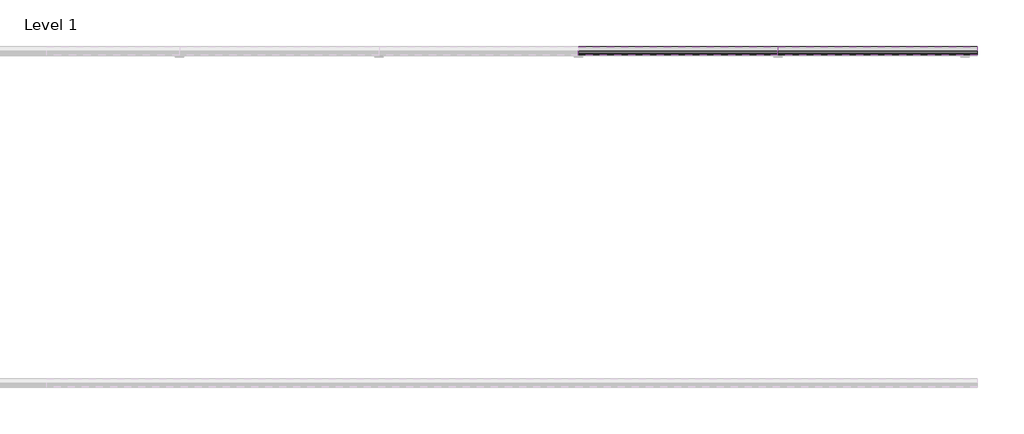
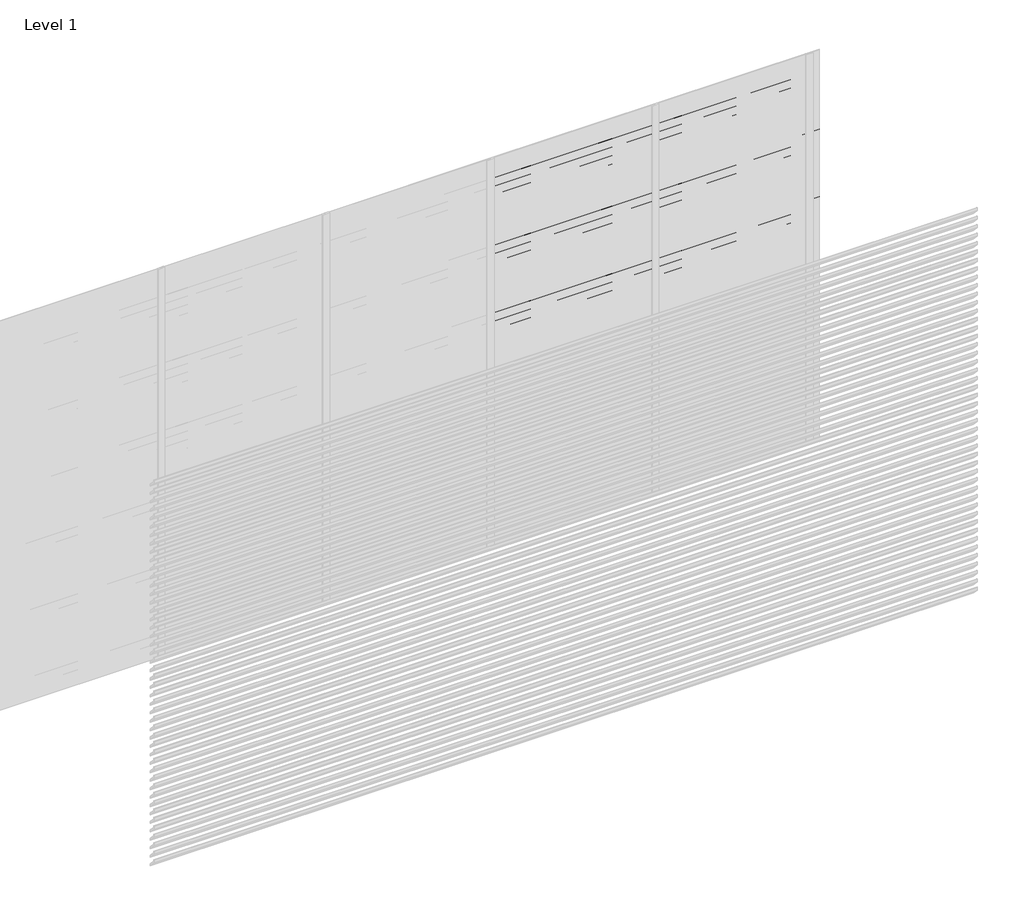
# One storey, part 12 of 12: 103 proxies.
"""IFC4 building model written with IfcOpenShell, lengths in millimetres."""

from ifc_helpers import new_model, si_unit, frame, origin, place, context, project, spatial, polyline, outline, extrude, element, save

model = new_model("IFC4")

# Units and contexts
model_context = context("Model", 3, world=origin())
ifc_project = project(units=[si_unit("LENGTHUNIT", "METRE", prefix="MILLI")], contexts=[model_context])

# Site, building, storey
site = spatial("IfcSite", under=ifc_project)
building = spatial("IfcBuilding", under=site)
storey = spatial("IfcBuildingStorey", under=building, Name="Level 1", Elevation=0.0)

# Proxies
placement = place(None, origin())
element("IfcBuildingElementProxy", 1, Name="Wall Sweeps", at=placement, inside=storey, context=model_context, shape_type="SweptSolid", body=[
    extrude(outline(polyline([(5.0, 715.0), (5.0, 705.7409854), (54.0, 655.0), (54.0, 639.0), (3.0, 691.812046), (3.0, 715.0), (5.0, 715.0)])), frame((2400.0, 0.0, 0.0), z_axis=(1.0, 0.0, 0.0), x_axis=(0.0, 1.0, 0.0)), (0.0, 0.0, 1.0), 1200.0),
])
element("IfcBuildingElementProxy", 2, Name="Wall Sweeps", at=placement, inside=storey, context=model_context, shape_type="SweptSolid", body=[
    extrude(outline(polyline([(5.0, 650.0), (5.0, 640.7409854), (54.0, 590.0), (54.0, 574.0), (3.0, 626.812046), (3.0, 650.0), (5.0, 650.0)])), frame((2400.0, 0.0, 0.0), z_axis=(1.0, 0.0, 0.0), x_axis=(0.0, 1.0, 0.0)), (0.0, 0.0, 1.0), 1200.0),
])
element("IfcBuildingElementProxy", 3, Name="Wall Sweeps", at=placement, inside=storey, context=model_context, shape_type="SweptSolid", body=[
    extrude(outline(polyline([(5.0, 585.0), (5.0, 575.7409854), (54.0, 525.0), (54.0, 509.0), (3.0, 561.812046), (3.0, 585.0), (5.0, 585.0)])), frame((2400.0, 0.0, 0.0), z_axis=(1.0, 0.0, 0.0), x_axis=(0.0, 1.0, 0.0)), (0.0, 0.0, 1.0), 1200.0),
])
element("IfcBuildingElementProxy", 4, Name="Wall Sweeps", at=placement, inside=storey, context=model_context, shape_type="SweptSolid", body=[
    extrude(outline(polyline([(5.0, 520.0), (5.0, 510.7409854), (54.0, 460.0), (54.0, 444.0), (3.0, 496.812046), (3.0, 520.0), (5.0, 520.0)])), frame((2400.0, 0.0, 0.0), z_axis=(1.0, 0.0, 0.0), x_axis=(0.0, 1.0, 0.0)), (0.0, 0.0, 1.0), 1200.0),
])
element("IfcBuildingElementProxy", 5, Name="Wall Sweeps", at=placement, inside=storey, context=model_context, shape_type="SweptSolid", body=[
    extrude(outline(polyline([(5.0, 455.0), (5.0, 445.7409854), (54.0, 395.0), (54.0, 379.0), (3.0, 431.812046), (3.0, 455.0), (5.0, 455.0)])), frame((2400.0, 0.0, 0.0), z_axis=(1.0, 0.0, 0.0), x_axis=(0.0, 1.0, 0.0)), (0.0, 0.0, 1.0), 1200.0),
])
element("IfcBuildingElementProxy", 6, Name="Wall Sweeps", at=placement, inside=storey, context=model_context, shape_type="SweptSolid", body=[
    extrude(outline(polyline([(5.0, 390.0), (5.0, 380.7409854), (54.0, 330.0), (54.0, 314.0), (3.0, 366.812046), (3.0, 390.0), (5.0, 390.0)])), frame((2400.0, 0.0, 0.0), z_axis=(1.0, 0.0, 0.0), x_axis=(0.0, 1.0, 0.0)), (0.0, 0.0, 1.0), 1200.0),
])
element("IfcBuildingElementProxy", 7, Name="Wall Sweeps", at=placement, inside=storey, context=model_context, shape_type="SweptSolid", body=[
    extrude(outline(polyline([(5.0, 325.0), (5.0, 315.7409854), (54.0, 265.0), (54.0, 249.0), (3.0, 301.812046), (3.0, 325.0), (5.0, 325.0)])), frame((2400.0, 0.0, 0.0), z_axis=(1.0, 0.0, 0.0), x_axis=(0.0, 1.0, 0.0)), (0.0, 0.0, 1.0), 1200.0),
])
element("IfcBuildingElementProxy", 8, Name="Wall Sweeps", at=placement, inside=storey, context=model_context, shape_type="SweptSolid", body=[
    extrude(outline(polyline([(5.0, 260.0), (5.0, 250.7409854), (54.0, 200.0), (54.0, 184.0), (3.0, 236.812046), (3.0, 260.0), (5.0, 260.0)])), frame((2400.0, 0.0, 0.0), z_axis=(1.0, 0.0, 0.0), x_axis=(0.0, 1.0, 0.0)), (0.0, 0.0, 1.0), 1200.0),
])
element("IfcBuildingElementProxy", 9, Name="Wall Sweeps", at=placement, inside=storey, context=model_context, shape_type="SweptSolid", body=[
    extrude(outline(polyline([(5.0, 195.0), (5.0, 185.7409854), (54.0, 135.0), (54.0, 119.0), (3.0, 171.812046), (3.0, 195.0), (5.0, 195.0)])), frame((2400.0, 0.0, 0.0), z_axis=(1.0, 0.0, 0.0), x_axis=(0.0, 1.0, 0.0)), (0.0, 0.0, 1.0), 1200.0),
])
element("IfcBuildingElementProxy", 10, Name="Wall Sweeps", at=placement, inside=storey, context=model_context, shape_type="SweptSolid", body=[
    extrude(outline(polyline([(5.0, 130.0), (5.0, 120.7409854), (54.0, 70.0), (54.0, 54.0), (3.0, 106.812046), (3.0, 130.0), (5.0, 130.0)])), frame((2400.0, 0.0, 0.0), z_axis=(1.0, 0.0, 0.0), x_axis=(0.0, 1.0, 0.0)), (0.0, 0.0, 1.0), 1200.0),
])
element("IfcBuildingElementProxy", 11, Name="Wall Sweeps", at=placement, inside=storey, context=model_context, shape_type="SweptSolid", body=[
    extrude(outline(polyline([(5.0, 65.0), (5.0, 55.7409854), (54.0, 5.0), (54.0, -11.0), (3.0, 41.812046), (3.0, 65.0), (5.0, 65.0)])), frame((2400.0, 0.0, 0.0), z_axis=(1.0, 0.0, 0.0), x_axis=(0.0, 1.0, 0.0)), (0.0, 0.0, 1.0), 1200.0),
])
element("IfcBuildingElementProxy", 12, Name="Wall Sweeps", at=placement, inside=storey, context=model_context, shape_type="SweptSolid", body=[
    extrude(outline(polyline([(5.0, 2990.0), (5.0, 2980.7409854), (54.0, 2930.0), (54.0, 2914.0), (3.0, 2966.812046), (3.0, 2990.0), (5.0, 2990.0)])), frame((3600.0, 0.0, 0.0), z_axis=(1.0, 0.0, 0.0), x_axis=(0.0, 1.0, 0.0)), (0.0, 0.0, 1.0), 1200.0),
])
element("IfcBuildingElementProxy", 13, Name="Wall Sweeps", at=placement, inside=storey, context=model_context, shape_type="SweptSolid", body=[
    extrude(outline(polyline([(5.0, 2925.0), (5.0, 2915.7409854), (54.0, 2865.0), (54.0, 2849.0), (3.0, 2901.812046), (3.0, 2925.0), (5.0, 2925.0)])), frame((3600.0, 0.0, 0.0), z_axis=(1.0, 0.0, 0.0), x_axis=(0.0, 1.0, 0.0)), (0.0, 0.0, 1.0), 1200.0),
])
element("IfcBuildingElementProxy", 14, Name="Wall Sweeps", at=placement, inside=storey, context=model_context, shape_type="SweptSolid", body=[
    extrude(outline(polyline([(5.0, 2860.0), (5.0, 2850.7409854), (54.0, 2800.0), (54.0, 2784.0), (3.0, 2836.812046), (3.0, 2860.0), (5.0, 2860.0)])), frame((3600.0, 0.0, 0.0), z_axis=(1.0, 0.0, 0.0), x_axis=(0.0, 1.0, 0.0)), (0.0, 0.0, 1.0), 1200.0),
])
element("IfcBuildingElementProxy", 15, Name="Wall Sweeps", at=placement, inside=storey, context=model_context, shape_type="SweptSolid", body=[
    extrude(outline(polyline([(5.0, 2795.0), (5.0, 2785.7409854), (54.0, 2735.0), (54.0, 2719.0), (3.0, 2771.812046), (3.0, 2795.0), (5.0, 2795.0)])), frame((3600.0, 0.0, 0.0), z_axis=(1.0, 0.0, 0.0), x_axis=(0.0, 1.0, 0.0)), (0.0, 0.0, 1.0), 1200.0),
])
element("IfcBuildingElementProxy", 16, Name="Wall Sweeps", at=placement, inside=storey, context=model_context, shape_type="SweptSolid", body=[
    extrude(outline(polyline([(5.0, 2730.0), (5.0, 2720.7409854), (54.0, 2670.0), (54.0, 2654.0), (3.0, 2706.812046), (3.0, 2730.0), (5.0, 2730.0)])), frame((3600.0, 0.0, 0.0), z_axis=(1.0, 0.0, 0.0), x_axis=(0.0, 1.0, 0.0)), (0.0, 0.0, 1.0), 1200.0),
])
element("IfcBuildingElementProxy", 17, Name="Wall Sweeps", at=placement, inside=storey, context=model_context, shape_type="SweptSolid", body=[
    extrude(outline(polyline([(5.0, 2665.0), (5.0, 2655.7409854), (54.0, 2605.0), (54.0, 2589.0), (3.0, 2641.812046), (3.0, 2665.0), (5.0, 2665.0)])), frame((3600.0, 0.0, 0.0), z_axis=(1.0, 0.0, 0.0), x_axis=(0.0, 1.0, 0.0)), (0.0, 0.0, 1.0), 1200.0),
])
element("IfcBuildingElementProxy", 18, Name="Wall Sweeps", at=placement, inside=storey, context=model_context, shape_type="SweptSolid", body=[
    extrude(outline(polyline([(5.0, 2600.0), (5.0, 2590.7409854), (54.0, 2540.0), (54.0, 2524.0), (3.0, 2576.812046), (3.0, 2600.0), (5.0, 2600.0)])), frame((3600.0, 0.0, 0.0), z_axis=(1.0, 0.0, 0.0), x_axis=(0.0, 1.0, 0.0)), (0.0, 0.0, 1.0), 1200.0),
])
element("IfcBuildingElementProxy", 19, Name="Wall Sweeps", at=placement, inside=storey, context=model_context, shape_type="SweptSolid", body=[
    extrude(outline(polyline([(5.0, 2535.0), (5.0, 2525.7409854), (54.0, 2475.0), (54.0, 2459.0), (3.0, 2511.812046), (3.0, 2535.0), (5.0, 2535.0)])), frame((3600.0, 0.0, 0.0), z_axis=(1.0, 0.0, 0.0), x_axis=(0.0, 1.0, 0.0)), (0.0, 0.0, 1.0), 1200.0),
])
element("IfcBuildingElementProxy", 20, Name="Wall Sweeps", at=placement, inside=storey, context=model_context, shape_type="SweptSolid", body=[
    extrude(outline(polyline([(5.0, 2470.0), (5.0, 2460.7409854), (54.0, 2410.0), (54.0, 2394.0), (3.0, 2446.812046), (3.0, 2470.0), (5.0, 2470.0)])), frame((3600.0, 0.0, 0.0), z_axis=(1.0, 0.0, 0.0), x_axis=(0.0, 1.0, 0.0)), (0.0, 0.0, 1.0), 1200.0),
])
element("IfcBuildingElementProxy", 21, Name="Wall Sweeps", at=placement, inside=storey, context=model_context, shape_type="SweptSolid", body=[
    extrude(outline(polyline([(5.0, 2405.0), (5.0, 2395.7409854), (54.0, 2345.0), (54.0, 2329.0), (3.0, 2381.812046), (3.0, 2405.0), (5.0, 2405.0)])), frame((3600.0, 0.0, 0.0), z_axis=(1.0, 0.0, 0.0), x_axis=(0.0, 1.0, 0.0)), (0.0, 0.0, 1.0), 1200.0),
])
element("IfcBuildingElementProxy", 22, Name="Wall Sweeps", at=placement, inside=storey, context=model_context, shape_type="SweptSolid", body=[
    extrude(outline(polyline([(5.0, 2340.0), (5.0, 2330.7409854), (54.0, 2280.0), (54.0, 2264.0), (3.0, 2316.812046), (3.0, 2340.0), (5.0, 2340.0)])), frame((3600.0, 0.0, 0.0), z_axis=(1.0, 0.0, 0.0), x_axis=(0.0, 1.0, 0.0)), (0.0, 0.0, 1.0), 1200.0),
])
element("IfcBuildingElementProxy", 23, Name="Wall Sweeps", at=placement, inside=storey, context=model_context, shape_type="SweptSolid", body=[
    extrude(outline(polyline([(5.0, 2275.0), (5.0, 2265.7409854), (54.0, 2215.0), (54.0, 2199.0), (3.0, 2251.812046), (3.0, 2275.0), (5.0, 2275.0)])), frame((3600.0, 0.0, 0.0), z_axis=(1.0, 0.0, 0.0), x_axis=(0.0, 1.0, 0.0)), (0.0, 0.0, 1.0), 1200.0),
])
element("IfcBuildingElementProxy", 24, Name="Wall Sweeps", at=placement, inside=storey, context=model_context, shape_type="SweptSolid", body=[
    extrude(outline(polyline([(5.0, 2210.0), (5.0, 2200.7409854), (54.0, 2150.0), (54.0, 2134.0), (3.0, 2186.812046), (3.0, 2210.0), (5.0, 2210.0)])), frame((3600.0, 0.0, 0.0), z_axis=(1.0, 0.0, 0.0), x_axis=(0.0, 1.0, 0.0)), (0.0, 0.0, 1.0), 1200.0),
])
element("IfcBuildingElementProxy", 25, Name="Wall Sweeps", at=placement, inside=storey, context=model_context, shape_type="SweptSolid", body=[
    extrude(outline(polyline([(5.0, 2145.0), (5.0, 2135.7409854), (54.0, 2085.0), (54.0, 2069.0), (3.0, 2121.812046), (3.0, 2145.0), (5.0, 2145.0)])), frame((3600.0, 0.0, 0.0), z_axis=(1.0, 0.0, 0.0), x_axis=(0.0, 1.0, 0.0)), (0.0, 0.0, 1.0), 1200.0),
])
element("IfcBuildingElementProxy", 26, Name="Wall Sweeps", at=placement, inside=storey, context=model_context, shape_type="SweptSolid", body=[
    extrude(outline(polyline([(5.0, 2080.0), (5.0, 2070.7409854), (54.0, 2020.0), (54.0, 2004.0), (3.0, 2056.812046), (3.0, 2080.0), (5.0, 2080.0)])), frame((3600.0, 0.0, 0.0), z_axis=(1.0, 0.0, 0.0), x_axis=(0.0, 1.0, 0.0)), (0.0, 0.0, 1.0), 1200.0),
])
element("IfcBuildingElementProxy", 27, Name="Wall Sweeps", at=placement, inside=storey, context=model_context, shape_type="SweptSolid", body=[
    extrude(outline(polyline([(5.0, 2015.0), (5.0, 2005.7409854), (54.0, 1955.0), (54.0, 1939.0), (3.0, 1991.812046), (3.0, 2015.0), (5.0, 2015.0)])), frame((3600.0, 0.0, 0.0), z_axis=(1.0, 0.0, 0.0), x_axis=(0.0, 1.0, 0.0)), (0.0, 0.0, 1.0), 1200.0),
])
element("IfcBuildingElementProxy", 28, Name="Wall Sweeps", at=placement, inside=storey, context=model_context, shape_type="SweptSolid", body=[
    extrude(outline(polyline([(5.0, 1950.0), (5.0, 1940.7409854), (54.0, 1890.0), (54.0, 1874.0), (3.0, 1926.812046), (3.0, 1950.0), (5.0, 1950.0)])), frame((3600.0, 0.0, 0.0), z_axis=(1.0, 0.0, 0.0), x_axis=(0.0, 1.0, 0.0)), (0.0, 0.0, 1.0), 1200.0),
])
element("IfcBuildingElementProxy", 29, Name="Wall Sweeps", at=placement, inside=storey, context=model_context, shape_type="SweptSolid", body=[
    extrude(outline(polyline([(5.0, 1885.0), (5.0, 1875.7409854), (54.0, 1825.0), (54.0, 1809.0), (3.0, 1861.812046), (3.0, 1885.0), (5.0, 1885.0)])), frame((3600.0, 0.0, 0.0), z_axis=(1.0, 0.0, 0.0), x_axis=(0.0, 1.0, 0.0)), (0.0, 0.0, 1.0), 1200.0),
])
element("IfcBuildingElementProxy", 30, Name="Wall Sweeps", at=placement, inside=storey, context=model_context, shape_type="SweptSolid", body=[
    extrude(outline(polyline([(5.0, 1820.0), (5.0, 1810.7409854), (54.0, 1760.0), (54.0, 1744.0), (3.0, 1796.812046), (3.0, 1820.0), (5.0, 1820.0)])), frame((3600.0, 0.0, 0.0), z_axis=(1.0, 0.0, 0.0), x_axis=(0.0, 1.0, 0.0)), (0.0, 0.0, 1.0), 1200.0),
])
element("IfcBuildingElementProxy", 31, Name="Wall Sweeps", at=placement, inside=storey, context=model_context, shape_type="SweptSolid", body=[
    extrude(outline(polyline([(5.0, 1755.0), (5.0, 1745.7409854), (54.0, 1695.0), (54.0, 1679.0), (3.0, 1731.812046), (3.0, 1755.0), (5.0, 1755.0)])), frame((3600.0, 0.0, 0.0), z_axis=(1.0, 0.0, 0.0), x_axis=(0.0, 1.0, 0.0)), (0.0, 0.0, 1.0), 1200.0),
])
element("IfcBuildingElementProxy", 32, Name="Wall Sweeps", at=placement, inside=storey, context=model_context, shape_type="SweptSolid", body=[
    extrude(outline(polyline([(5.0, 1690.0), (5.0, 1680.7409854), (54.0, 1630.0), (54.0, 1614.0), (3.0, 1666.812046), (3.0, 1690.0), (5.0, 1690.0)])), frame((3600.0, 0.0, 0.0), z_axis=(1.0, 0.0, 0.0), x_axis=(0.0, 1.0, 0.0)), (0.0, 0.0, 1.0), 1200.0),
])
element("IfcBuildingElementProxy", 33, Name="Wall Sweeps", at=placement, inside=storey, context=model_context, shape_type="SweptSolid", body=[
    extrude(outline(polyline([(5.0, 1625.0), (5.0, 1615.7409854), (54.0, 1565.0), (54.0, 1549.0), (3.0, 1601.812046), (3.0, 1625.0), (5.0, 1625.0)])), frame((3600.0, 0.0, 0.0), z_axis=(1.0, 0.0, 0.0), x_axis=(0.0, 1.0, 0.0)), (0.0, 0.0, 1.0), 1200.0),
])
element("IfcBuildingElementProxy", 34, Name="Wall Sweeps", at=placement, inside=storey, context=model_context, shape_type="SweptSolid", body=[
    extrude(outline(polyline([(5.0, 1560.0), (5.0, 1550.7409854), (54.0, 1500.0), (54.0, 1484.0), (3.0, 1536.812046), (3.0, 1560.0), (5.0, 1560.0)])), frame((3600.0, 0.0, 0.0), z_axis=(1.0, 0.0, 0.0), x_axis=(0.0, 1.0, 0.0)), (0.0, 0.0, 1.0), 1200.0),
])
element("IfcBuildingElementProxy", 35, Name="Wall Sweeps", at=placement, inside=storey, context=model_context, shape_type="SweptSolid", body=[
    extrude(outline(polyline([(5.0, 1495.0), (5.0, 1485.7409854), (54.0, 1435.0), (54.0, 1419.0), (3.0, 1471.812046), (3.0, 1495.0), (5.0, 1495.0)])), frame((3600.0, 0.0, 0.0), z_axis=(1.0, 0.0, 0.0), x_axis=(0.0, 1.0, 0.0)), (0.0, 0.0, 1.0), 1200.0),
])
element("IfcBuildingElementProxy", 36, Name="Wall Sweeps", at=placement, inside=storey, context=model_context, shape_type="SweptSolid", body=[
    extrude(outline(polyline([(5.0, 1430.0), (5.0, 1420.7409854), (54.0, 1370.0), (54.0, 1354.0), (3.0, 1406.812046), (3.0, 1430.0), (5.0, 1430.0)])), frame((3600.0, 0.0, 0.0), z_axis=(1.0, 0.0, 0.0), x_axis=(0.0, 1.0, 0.0)), (0.0, 0.0, 1.0), 1200.0),
])
element("IfcBuildingElementProxy", 37, Name="Wall Sweeps", at=placement, inside=storey, context=model_context, shape_type="SweptSolid", body=[
    extrude(outline(polyline([(5.0, 1365.0), (5.0, 1355.7409854), (54.0, 1305.0), (54.0, 1289.0), (3.0, 1341.812046), (3.0, 1365.0), (5.0, 1365.0)])), frame((3600.0, 0.0, 0.0), z_axis=(1.0, 0.0, 0.0), x_axis=(0.0, 1.0, 0.0)), (0.0, 0.0, 1.0), 1200.0),
])
element("IfcBuildingElementProxy", 38, Name="Wall Sweeps", at=placement, inside=storey, context=model_context, shape_type="SweptSolid", body=[
    extrude(outline(polyline([(5.0, 1300.0), (5.0, 1290.7409854), (54.0, 1240.0), (54.0, 1224.0), (3.0, 1276.812046), (3.0, 1300.0), (5.0, 1300.0)])), frame((3600.0, 0.0, 0.0), z_axis=(1.0, 0.0, 0.0), x_axis=(0.0, 1.0, 0.0)), (0.0, 0.0, 1.0), 1200.0),
])
element("IfcBuildingElementProxy", 39, Name="Wall Sweeps", at=placement, inside=storey, context=model_context, shape_type="SweptSolid", body=[
    extrude(outline(polyline([(5.0, 1235.0), (5.0, 1225.7409854), (54.0, 1175.0), (54.0, 1159.0), (3.0, 1211.812046), (3.0, 1235.0), (5.0, 1235.0)])), frame((3600.0, 0.0, 0.0), z_axis=(1.0, 0.0, 0.0), x_axis=(0.0, 1.0, 0.0)), (0.0, 0.0, 1.0), 1200.0),
])
element("IfcBuildingElementProxy", 40, Name="Wall Sweeps", at=placement, inside=storey, context=model_context, shape_type="SweptSolid", body=[
    extrude(outline(polyline([(5.0, 1170.0), (5.0, 1160.7409854), (54.0, 1110.0), (54.0, 1094.0), (3.0, 1146.812046), (3.0, 1170.0), (5.0, 1170.0)])), frame((3600.0, 0.0, 0.0), z_axis=(1.0, 0.0, 0.0), x_axis=(0.0, 1.0, 0.0)), (0.0, 0.0, 1.0), 1200.0),
])
element("IfcBuildingElementProxy", 41, Name="Wall Sweeps", at=placement, inside=storey, context=model_context, shape_type="SweptSolid", body=[
    extrude(outline(polyline([(5.0, 1105.0), (5.0, 1095.7409854), (54.0, 1045.0), (54.0, 1029.0), (3.0, 1081.812046), (3.0, 1105.0), (5.0, 1105.0)])), frame((3600.0, 0.0, 0.0), z_axis=(1.0, 0.0, 0.0), x_axis=(0.0, 1.0, 0.0)), (0.0, 0.0, 1.0), 1200.0),
])
element("IfcBuildingElementProxy", 42, Name="Wall Sweeps", at=placement, inside=storey, context=model_context, shape_type="SweptSolid", body=[
    extrude(outline(polyline([(5.0, 1040.0), (5.0, 1030.7409854), (54.0, 980.0), (54.0, 964.0), (3.0, 1016.812046), (3.0, 1040.0), (5.0, 1040.0)])), frame((3600.0, 0.0, 0.0), z_axis=(1.0, 0.0, 0.0), x_axis=(0.0, 1.0, 0.0)), (0.0, 0.0, 1.0), 1200.0),
])
element("IfcBuildingElementProxy", 43, Name="Wall Sweeps", at=placement, inside=storey, context=model_context, shape_type="SweptSolid", body=[
    extrude(outline(polyline([(5.0, 975.0), (5.0, 965.7409854), (54.0, 915.0), (54.0, 899.0), (3.0, 951.812046), (3.0, 975.0), (5.0, 975.0)])), frame((3600.0, 0.0, 0.0), z_axis=(1.0, 0.0, 0.0), x_axis=(0.0, 1.0, 0.0)), (0.0, 0.0, 1.0), 1200.0),
])
element("IfcBuildingElementProxy", 44, Name="Wall Sweeps", at=placement, inside=storey, context=model_context, shape_type="SweptSolid", body=[
    extrude(outline(polyline([(5.0, 910.0), (5.0, 900.7409854), (54.0, 850.0), (54.0, 834.0), (3.0, 886.812046), (3.0, 910.0), (5.0, 910.0)])), frame((3600.0, 0.0, 0.0), z_axis=(1.0, 0.0, 0.0), x_axis=(0.0, 1.0, 0.0)), (0.0, 0.0, 1.0), 1200.0),
])
element("IfcBuildingElementProxy", 45, Name="Wall Sweeps", at=placement, inside=storey, context=model_context, shape_type="SweptSolid", body=[
    extrude(outline(polyline([(5.0, 845.0), (5.0, 835.7409854), (54.0, 785.0), (54.0, 769.0), (3.0, 821.812046), (3.0, 845.0), (5.0, 845.0)])), frame((3600.0, 0.0, 0.0), z_axis=(1.0, 0.0, 0.0), x_axis=(0.0, 1.0, 0.0)), (0.0, 0.0, 1.0), 1200.0),
])
element("IfcBuildingElementProxy", 46, Name="Wall Sweeps", at=placement, inside=storey, context=model_context, shape_type="SweptSolid", body=[
    extrude(outline(polyline([(5.0, 780.0), (5.0, 770.7409854), (54.0, 720.0), (54.0, 704.0), (3.0, 756.812046), (3.0, 780.0), (5.0, 780.0)])), frame((3600.0, 0.0, 0.0), z_axis=(1.0, 0.0, 0.0), x_axis=(0.0, 1.0, 0.0)), (0.0, 0.0, 1.0), 1200.0),
])
element("IfcBuildingElementProxy", 47, Name="Wall Sweeps", at=placement, inside=storey, context=model_context, shape_type="SweptSolid", body=[
    extrude(outline(polyline([(5.0, 715.0), (5.0, 705.7409854), (54.0, 655.0), (54.0, 639.0), (3.0, 691.812046), (3.0, 715.0), (5.0, 715.0)])), frame((3600.0, 0.0, 0.0), z_axis=(1.0, 0.0, 0.0), x_axis=(0.0, 1.0, 0.0)), (0.0, 0.0, 1.0), 1200.0),
])
element("IfcBuildingElementProxy", 48, Name="Wall Sweeps", at=placement, inside=storey, context=model_context, shape_type="SweptSolid", body=[
    extrude(outline(polyline([(5.0, 650.0), (5.0, 640.7409854), (54.0, 590.0), (54.0, 574.0), (3.0, 626.812046), (3.0, 650.0), (5.0, 650.0)])), frame((3600.0, 0.0, 0.0), z_axis=(1.0, 0.0, 0.0), x_axis=(0.0, 1.0, 0.0)), (0.0, 0.0, 1.0), 1200.0),
])
element("IfcBuildingElementProxy", 49, Name="Wall Sweeps", at=placement, inside=storey, context=model_context, shape_type="SweptSolid", body=[
    extrude(outline(polyline([(5.0, 585.0), (5.0, 575.7409854), (54.0, 525.0), (54.0, 509.0), (3.0, 561.812046), (3.0, 585.0), (5.0, 585.0)])), frame((3600.0, 0.0, 0.0), z_axis=(1.0, 0.0, 0.0), x_axis=(0.0, 1.0, 0.0)), (0.0, 0.0, 1.0), 1200.0),
])
element("IfcBuildingElementProxy", 50, Name="Wall Sweeps", at=placement, inside=storey, context=model_context, shape_type="SweptSolid", body=[
    extrude(outline(polyline([(5.0, 520.0), (5.0, 510.7409854), (54.0, 460.0), (54.0, 444.0), (3.0, 496.812046), (3.0, 520.0), (5.0, 520.0)])), frame((3600.0, 0.0, 0.0), z_axis=(1.0, 0.0, 0.0), x_axis=(0.0, 1.0, 0.0)), (0.0, 0.0, 1.0), 1200.0),
])
element("IfcBuildingElementProxy", 51, Name="Wall Sweeps", at=placement, inside=storey, context=model_context, shape_type="SweptSolid", body=[
    extrude(outline(polyline([(5.0, 455.0), (5.0, 445.7409854), (54.0, 395.0), (54.0, 379.0), (3.0, 431.812046), (3.0, 455.0), (5.0, 455.0)])), frame((3600.0, 0.0, 0.0), z_axis=(1.0, 0.0, 0.0), x_axis=(0.0, 1.0, 0.0)), (0.0, 0.0, 1.0), 1200.0),
])
element("IfcBuildingElementProxy", 52, Name="Wall Sweeps", at=placement, inside=storey, context=model_context, shape_type="SweptSolid", body=[
    extrude(outline(polyline([(5.0, 390.0), (5.0, 380.7409854), (54.0, 330.0), (54.0, 314.0), (3.0, 366.812046), (3.0, 390.0), (5.0, 390.0)])), frame((3600.0, 0.0, 0.0), z_axis=(1.0, 0.0, 0.0), x_axis=(0.0, 1.0, 0.0)), (0.0, 0.0, 1.0), 1200.0),
])
element("IfcBuildingElementProxy", 53, Name="Wall Sweeps", at=placement, inside=storey, context=model_context, shape_type="SweptSolid", body=[
    extrude(outline(polyline([(5.0, 325.0), (5.0, 315.7409854), (54.0, 265.0), (54.0, 249.0), (3.0, 301.812046), (3.0, 325.0), (5.0, 325.0)])), frame((3600.0, 0.0, 0.0), z_axis=(1.0, 0.0, 0.0), x_axis=(0.0, 1.0, 0.0)), (0.0, 0.0, 1.0), 1200.0),
])
element("IfcBuildingElementProxy", 54, Name="Wall Sweeps", at=placement, inside=storey, context=model_context, shape_type="SweptSolid", body=[
    extrude(outline(polyline([(5.0, 260.0), (5.0, 250.7409854), (54.0, 200.0), (54.0, 184.0), (3.0, 236.812046), (3.0, 260.0), (5.0, 260.0)])), frame((3600.0, 0.0, 0.0), z_axis=(1.0, 0.0, 0.0), x_axis=(0.0, 1.0, 0.0)), (0.0, 0.0, 1.0), 1200.0),
])
element("IfcBuildingElementProxy", 55, Name="Wall Sweeps", at=placement, inside=storey, context=model_context, shape_type="SweptSolid", body=[
    extrude(outline(polyline([(5.0, 195.0), (5.0, 185.7409854), (54.0, 135.0), (54.0, 119.0), (3.0, 171.812046), (3.0, 195.0), (5.0, 195.0)])), frame((3600.0, 0.0, 0.0), z_axis=(1.0, 0.0, 0.0), x_axis=(0.0, 1.0, 0.0)), (0.0, 0.0, 1.0), 1200.0),
])
element("IfcBuildingElementProxy", 56, Name="Wall Sweeps", at=placement, inside=storey, context=model_context, shape_type="SweptSolid", body=[
    extrude(outline(polyline([(5.0, 130.0), (5.0, 120.7409854), (54.0, 70.0), (54.0, 54.0), (3.0, 106.812046), (3.0, 130.0), (5.0, 130.0)])), frame((3600.0, 0.0, 0.0), z_axis=(1.0, 0.0, 0.0), x_axis=(0.0, 1.0, 0.0)), (0.0, 0.0, 1.0), 1200.0),
])
element("IfcBuildingElementProxy", 57, Name="Wall Sweeps", at=placement, inside=storey, context=model_context, shape_type="SweptSolid", body=[
    extrude(outline(polyline([(5.0, 65.0), (5.0, 55.7409854), (54.0, 5.0), (54.0, -11.0), (3.0, 41.812046), (3.0, 65.0), (5.0, 65.0)])), frame((3600.0, 0.0, 0.0), z_axis=(1.0, 0.0, 0.0), x_axis=(0.0, 1.0, 0.0)), (0.0, 0.0, 1.0), 1200.0),
])
element("IfcBuildingElementProxy", 58, Name="Wall Sweeps", at=placement, inside=storey, context=model_context, shape_type="SweptSolid", body=[
    extrude(outline(polyline([(5.0, 2990.0), (5.0, 2980.7409854), (54.0, 2930.0), (54.0, 2914.0), (3.0, 2966.812046), (3.0, 2990.0), (5.0, 2990.0)])), frame((4800.0, 0.0, 0.0), z_axis=(1.0, 0.0, 0.0), x_axis=(0.0, 1.0, 0.0)), (0.0, 0.0, 1.0), 1200.0),
])
element("IfcBuildingElementProxy", 59, Name="Wall Sweeps", at=placement, inside=storey, context=model_context, shape_type="SweptSolid", body=[
    extrude(outline(polyline([(5.0, 2925.0), (5.0, 2915.7409854), (54.0, 2865.0), (54.0, 2849.0), (3.0, 2901.812046), (3.0, 2925.0), (5.0, 2925.0)])), frame((4800.0, 0.0, 0.0), z_axis=(1.0, 0.0, 0.0), x_axis=(0.0, 1.0, 0.0)), (0.0, 0.0, 1.0), 1200.0),
])
element("IfcBuildingElementProxy", 60, Name="Wall Sweeps", at=placement, inside=storey, context=model_context, shape_type="SweptSolid", body=[
    extrude(outline(polyline([(5.0, 2860.0), (5.0, 2850.7409854), (54.0, 2800.0), (54.0, 2784.0), (3.0, 2836.812046), (3.0, 2860.0), (5.0, 2860.0)])), frame((4800.0, 0.0, 0.0), z_axis=(1.0, 0.0, 0.0), x_axis=(0.0, 1.0, 0.0)), (0.0, 0.0, 1.0), 1200.0),
])
element("IfcBuildingElementProxy", 61, Name="Wall Sweeps", at=placement, inside=storey, context=model_context, shape_type="SweptSolid", body=[
    extrude(outline(polyline([(5.0, 2795.0), (5.0, 2785.7409854), (54.0, 2735.0), (54.0, 2719.0), (3.0, 2771.812046), (3.0, 2795.0), (5.0, 2795.0)])), frame((4800.0, 0.0, 0.0), z_axis=(1.0, 0.0, 0.0), x_axis=(0.0, 1.0, 0.0)), (0.0, 0.0, 1.0), 1200.0),
])
element("IfcBuildingElementProxy", 62, Name="Wall Sweeps", at=placement, inside=storey, context=model_context, shape_type="SweptSolid", body=[
    extrude(outline(polyline([(5.0, 2730.0), (5.0, 2720.7409854), (54.0, 2670.0), (54.0, 2654.0), (3.0, 2706.812046), (3.0, 2730.0), (5.0, 2730.0)])), frame((4800.0, 0.0, 0.0), z_axis=(1.0, 0.0, 0.0), x_axis=(0.0, 1.0, 0.0)), (0.0, 0.0, 1.0), 1200.0),
])
element("IfcBuildingElementProxy", 63, Name="Wall Sweeps", at=placement, inside=storey, context=model_context, shape_type="SweptSolid", body=[
    extrude(outline(polyline([(5.0, 2665.0), (5.0, 2655.7409854), (54.0, 2605.0), (54.0, 2589.0), (3.0, 2641.812046), (3.0, 2665.0), (5.0, 2665.0)])), frame((4800.0, 0.0, 0.0), z_axis=(1.0, 0.0, 0.0), x_axis=(0.0, 1.0, 0.0)), (0.0, 0.0, 1.0), 1200.0),
])
element("IfcBuildingElementProxy", 64, Name="Wall Sweeps", at=placement, inside=storey, context=model_context, shape_type="SweptSolid", body=[
    extrude(outline(polyline([(5.0, 2600.0), (5.0, 2590.7409854), (54.0, 2540.0), (54.0, 2524.0), (3.0, 2576.812046), (3.0, 2600.0), (5.0, 2600.0)])), frame((4800.0, 0.0, 0.0), z_axis=(1.0, 0.0, 0.0), x_axis=(0.0, 1.0, 0.0)), (0.0, 0.0, 1.0), 1200.0),
])
element("IfcBuildingElementProxy", 65, Name="Wall Sweeps", at=placement, inside=storey, context=model_context, shape_type="SweptSolid", body=[
    extrude(outline(polyline([(5.0, 2535.0), (5.0, 2525.7409854), (54.0, 2475.0), (54.0, 2459.0), (3.0, 2511.812046), (3.0, 2535.0), (5.0, 2535.0)])), frame((4800.0, 0.0, 0.0), z_axis=(1.0, 0.0, 0.0), x_axis=(0.0, 1.0, 0.0)), (0.0, 0.0, 1.0), 1200.0),
])
element("IfcBuildingElementProxy", 66, Name="Wall Sweeps", at=placement, inside=storey, context=model_context, shape_type="SweptSolid", body=[
    extrude(outline(polyline([(5.0, 2470.0), (5.0, 2460.7409854), (54.0, 2410.0), (54.0, 2394.0), (3.0, 2446.812046), (3.0, 2470.0), (5.0, 2470.0)])), frame((4800.0, 0.0, 0.0), z_axis=(1.0, 0.0, 0.0), x_axis=(0.0, 1.0, 0.0)), (0.0, 0.0, 1.0), 1200.0),
])
element("IfcBuildingElementProxy", 67, Name="Wall Sweeps", at=placement, inside=storey, context=model_context, shape_type="SweptSolid", body=[
    extrude(outline(polyline([(5.0, 2405.0), (5.0, 2395.7409854), (54.0, 2345.0), (54.0, 2329.0), (3.0, 2381.812046), (3.0, 2405.0), (5.0, 2405.0)])), frame((4800.0, 0.0, 0.0), z_axis=(1.0, 0.0, 0.0), x_axis=(0.0, 1.0, 0.0)), (0.0, 0.0, 1.0), 1200.0),
])
element("IfcBuildingElementProxy", 68, Name="Wall Sweeps", at=placement, inside=storey, context=model_context, shape_type="SweptSolid", body=[
    extrude(outline(polyline([(5.0, 2340.0), (5.0, 2330.7409854), (54.0, 2280.0), (54.0, 2264.0), (3.0, 2316.812046), (3.0, 2340.0), (5.0, 2340.0)])), frame((4800.0, 0.0, 0.0), z_axis=(1.0, 0.0, 0.0), x_axis=(0.0, 1.0, 0.0)), (0.0, 0.0, 1.0), 1200.0),
])
element("IfcBuildingElementProxy", 69, Name="Wall Sweeps", at=placement, inside=storey, context=model_context, shape_type="SweptSolid", body=[
    extrude(outline(polyline([(5.0, 2275.0), (5.0, 2265.7409854), (54.0, 2215.0), (54.0, 2199.0), (3.0, 2251.812046), (3.0, 2275.0), (5.0, 2275.0)])), frame((4800.0, 0.0, 0.0), z_axis=(1.0, 0.0, 0.0), x_axis=(0.0, 1.0, 0.0)), (0.0, 0.0, 1.0), 1200.0),
])
element("IfcBuildingElementProxy", 70, Name="Wall Sweeps", at=placement, inside=storey, context=model_context, shape_type="SweptSolid", body=[
    extrude(outline(polyline([(5.0, 2210.0), (5.0, 2200.7409854), (54.0, 2150.0), (54.0, 2134.0), (3.0, 2186.812046), (3.0, 2210.0), (5.0, 2210.0)])), frame((4800.0, 0.0, 0.0), z_axis=(1.0, 0.0, 0.0), x_axis=(0.0, 1.0, 0.0)), (0.0, 0.0, 1.0), 1200.0),
])
element("IfcBuildingElementProxy", 71, Name="Wall Sweeps", at=placement, inside=storey, context=model_context, shape_type="SweptSolid", body=[
    extrude(outline(polyline([(5.0, 2145.0), (5.0, 2135.7409854), (54.0, 2085.0), (54.0, 2069.0), (3.0, 2121.812046), (3.0, 2145.0), (5.0, 2145.0)])), frame((4800.0, 0.0, 0.0), z_axis=(1.0, 0.0, 0.0), x_axis=(0.0, 1.0, 0.0)), (0.0, 0.0, 1.0), 1200.0),
])
element("IfcBuildingElementProxy", 72, Name="Wall Sweeps", at=placement, inside=storey, context=model_context, shape_type="SweptSolid", body=[
    extrude(outline(polyline([(5.0, 2080.0), (5.0, 2070.7409854), (54.0, 2020.0), (54.0, 2004.0), (3.0, 2056.812046), (3.0, 2080.0), (5.0, 2080.0)])), frame((4800.0, 0.0, 0.0), z_axis=(1.0, 0.0, 0.0), x_axis=(0.0, 1.0, 0.0)), (0.0, 0.0, 1.0), 1200.0),
])
element("IfcBuildingElementProxy", 73, Name="Wall Sweeps", at=placement, inside=storey, context=model_context, shape_type="SweptSolid", body=[
    extrude(outline(polyline([(5.0, 2015.0), (5.0, 2005.7409854), (54.0, 1955.0), (54.0, 1939.0), (3.0, 1991.812046), (3.0, 2015.0), (5.0, 2015.0)])), frame((4800.0, 0.0, 0.0), z_axis=(1.0, 0.0, 0.0), x_axis=(0.0, 1.0, 0.0)), (0.0, 0.0, 1.0), 1200.0),
])
element("IfcBuildingElementProxy", 74, Name="Wall Sweeps", at=placement, inside=storey, context=model_context, shape_type="SweptSolid", body=[
    extrude(outline(polyline([(5.0, 1950.0), (5.0, 1940.7409854), (54.0, 1890.0), (54.0, 1874.0), (3.0, 1926.812046), (3.0, 1950.0), (5.0, 1950.0)])), frame((4800.0, 0.0, 0.0), z_axis=(1.0, 0.0, 0.0), x_axis=(0.0, 1.0, 0.0)), (0.0, 0.0, 1.0), 1200.0),
])
element("IfcBuildingElementProxy", 75, Name="Wall Sweeps", at=placement, inside=storey, context=model_context, shape_type="SweptSolid", body=[
    extrude(outline(polyline([(5.0, 1885.0), (5.0, 1875.7409854), (54.0, 1825.0), (54.0, 1809.0), (3.0, 1861.812046), (3.0, 1885.0), (5.0, 1885.0)])), frame((4800.0, 0.0, 0.0), z_axis=(1.0, 0.0, 0.0), x_axis=(0.0, 1.0, 0.0)), (0.0, 0.0, 1.0), 1200.0),
])
element("IfcBuildingElementProxy", 76, Name="Wall Sweeps", at=placement, inside=storey, context=model_context, shape_type="SweptSolid", body=[
    extrude(outline(polyline([(5.0, 1820.0), (5.0, 1810.7409854), (54.0, 1760.0), (54.0, 1744.0), (3.0, 1796.812046), (3.0, 1820.0), (5.0, 1820.0)])), frame((4800.0, 0.0, 0.0), z_axis=(1.0, 0.0, 0.0), x_axis=(0.0, 1.0, 0.0)), (0.0, 0.0, 1.0), 1200.0),
])
element("IfcBuildingElementProxy", 77, Name="Wall Sweeps", at=placement, inside=storey, context=model_context, shape_type="SweptSolid", body=[
    extrude(outline(polyline([(5.0, 1755.0), (5.0, 1745.7409854), (54.0, 1695.0), (54.0, 1679.0), (3.0, 1731.812046), (3.0, 1755.0), (5.0, 1755.0)])), frame((4800.0, 0.0, 0.0), z_axis=(1.0, 0.0, 0.0), x_axis=(0.0, 1.0, 0.0)), (0.0, 0.0, 1.0), 1200.0),
])
element("IfcBuildingElementProxy", 78, Name="Wall Sweeps", at=placement, inside=storey, context=model_context, shape_type="SweptSolid", body=[
    extrude(outline(polyline([(5.0, 1690.0), (5.0, 1680.7409854), (54.0, 1630.0), (54.0, 1614.0), (3.0, 1666.812046), (3.0, 1690.0), (5.0, 1690.0)])), frame((4800.0, 0.0, 0.0), z_axis=(1.0, 0.0, 0.0), x_axis=(0.0, 1.0, 0.0)), (0.0, 0.0, 1.0), 1200.0),
])
element("IfcBuildingElementProxy", 79, Name="Wall Sweeps", at=placement, inside=storey, context=model_context, shape_type="SweptSolid", body=[
    extrude(outline(polyline([(5.0, 1625.0), (5.0, 1615.7409854), (54.0, 1565.0), (54.0, 1549.0), (3.0, 1601.812046), (3.0, 1625.0), (5.0, 1625.0)])), frame((4800.0, 0.0, 0.0), z_axis=(1.0, 0.0, 0.0), x_axis=(0.0, 1.0, 0.0)), (0.0, 0.0, 1.0), 1200.0),
])
element("IfcBuildingElementProxy", 80, Name="Wall Sweeps", at=placement, inside=storey, context=model_context, shape_type="SweptSolid", body=[
    extrude(outline(polyline([(5.0, 1560.0), (5.0, 1550.7409854), (54.0, 1500.0), (54.0, 1484.0), (3.0, 1536.812046), (3.0, 1560.0), (5.0, 1560.0)])), frame((4800.0, 0.0, 0.0), z_axis=(1.0, 0.0, 0.0), x_axis=(0.0, 1.0, 0.0)), (0.0, 0.0, 1.0), 1200.0),
])
element("IfcBuildingElementProxy", 81, Name="Wall Sweeps", at=placement, inside=storey, context=model_context, shape_type="SweptSolid", body=[
    extrude(outline(polyline([(5.0, 1495.0), (5.0, 1485.7409854), (54.0, 1435.0), (54.0, 1419.0), (3.0, 1471.812046), (3.0, 1495.0), (5.0, 1495.0)])), frame((4800.0, 0.0, 0.0), z_axis=(1.0, 0.0, 0.0), x_axis=(0.0, 1.0, 0.0)), (0.0, 0.0, 1.0), 1200.0),
])
element("IfcBuildingElementProxy", 82, Name="Wall Sweeps", at=placement, inside=storey, context=model_context, shape_type="SweptSolid", body=[
    extrude(outline(polyline([(5.0, 1430.0), (5.0, 1420.7409854), (54.0, 1370.0), (54.0, 1354.0), (3.0, 1406.812046), (3.0, 1430.0), (5.0, 1430.0)])), frame((4800.0, 0.0, 0.0), z_axis=(1.0, 0.0, 0.0), x_axis=(0.0, 1.0, 0.0)), (0.0, 0.0, 1.0), 1200.0),
])
element("IfcBuildingElementProxy", 83, Name="Wall Sweeps", at=placement, inside=storey, context=model_context, shape_type="SweptSolid", body=[
    extrude(outline(polyline([(5.0, 1365.0), (5.0, 1355.7409854), (54.0, 1305.0), (54.0, 1289.0), (3.0, 1341.812046), (3.0, 1365.0), (5.0, 1365.0)])), frame((4800.0, 0.0, 0.0), z_axis=(1.0, 0.0, 0.0), x_axis=(0.0, 1.0, 0.0)), (0.0, 0.0, 1.0), 1200.0),
])
element("IfcBuildingElementProxy", 84, Name="Wall Sweeps", at=placement, inside=storey, context=model_context, shape_type="SweptSolid", body=[
    extrude(outline(polyline([(5.0, 1300.0), (5.0, 1290.7409854), (54.0, 1240.0), (54.0, 1224.0), (3.0, 1276.812046), (3.0, 1300.0), (5.0, 1300.0)])), frame((4800.0, 0.0, 0.0), z_axis=(1.0, 0.0, 0.0), x_axis=(0.0, 1.0, 0.0)), (0.0, 0.0, 1.0), 1200.0),
])
element("IfcBuildingElementProxy", 85, Name="Wall Sweeps", at=placement, inside=storey, context=model_context, shape_type="SweptSolid", body=[
    extrude(outline(polyline([(5.0, 1235.0), (5.0, 1225.7409854), (54.0, 1175.0), (54.0, 1159.0), (3.0, 1211.812046), (3.0, 1235.0), (5.0, 1235.0)])), frame((4800.0, 0.0, 0.0), z_axis=(1.0, 0.0, 0.0), x_axis=(0.0, 1.0, 0.0)), (0.0, 0.0, 1.0), 1200.0),
])
element("IfcBuildingElementProxy", 86, Name="Wall Sweeps", at=placement, inside=storey, context=model_context, shape_type="SweptSolid", body=[
    extrude(outline(polyline([(5.0, 1170.0), (5.0, 1160.7409854), (54.0, 1110.0), (54.0, 1094.0), (3.0, 1146.812046), (3.0, 1170.0), (5.0, 1170.0)])), frame((4800.0, 0.0, 0.0), z_axis=(1.0, 0.0, 0.0), x_axis=(0.0, 1.0, 0.0)), (0.0, 0.0, 1.0), 1200.0),
])
element("IfcBuildingElementProxy", 87, Name="Wall Sweeps", at=placement, inside=storey, context=model_context, shape_type="SweptSolid", body=[
    extrude(outline(polyline([(5.0, 1105.0), (5.0, 1095.7409854), (54.0, 1045.0), (54.0, 1029.0), (3.0, 1081.812046), (3.0, 1105.0), (5.0, 1105.0)])), frame((4800.0, 0.0, 0.0), z_axis=(1.0, 0.0, 0.0), x_axis=(0.0, 1.0, 0.0)), (0.0, 0.0, 1.0), 1200.0),
])
element("IfcBuildingElementProxy", 88, Name="Wall Sweeps", at=placement, inside=storey, context=model_context, shape_type="SweptSolid", body=[
    extrude(outline(polyline([(5.0, 1040.0), (5.0, 1030.7409854), (54.0, 980.0), (54.0, 964.0), (3.0, 1016.812046), (3.0, 1040.0), (5.0, 1040.0)])), frame((4800.0, 0.0, 0.0), z_axis=(1.0, 0.0, 0.0), x_axis=(0.0, 1.0, 0.0)), (0.0, 0.0, 1.0), 1200.0),
])
element("IfcBuildingElementProxy", 89, Name="Wall Sweeps", at=placement, inside=storey, context=model_context, shape_type="SweptSolid", body=[
    extrude(outline(polyline([(5.0, 975.0), (5.0, 965.7409854), (54.0, 915.0), (54.0, 899.0), (3.0, 951.812046), (3.0, 975.0), (5.0, 975.0)])), frame((4800.0, 0.0, 0.0), z_axis=(1.0, 0.0, 0.0), x_axis=(0.0, 1.0, 0.0)), (0.0, 0.0, 1.0), 1200.0),
])
element("IfcBuildingElementProxy", 90, Name="Wall Sweeps", at=placement, inside=storey, context=model_context, shape_type="SweptSolid", body=[
    extrude(outline(polyline([(5.0, 910.0), (5.0, 900.7409854), (54.0, 850.0), (54.0, 834.0), (3.0, 886.812046), (3.0, 910.0), (5.0, 910.0)])), frame((4800.0, 0.0, 0.0), z_axis=(1.0, 0.0, 0.0), x_axis=(0.0, 1.0, 0.0)), (0.0, 0.0, 1.0), 1200.0),
])
element("IfcBuildingElementProxy", 91, Name="Wall Sweeps", at=placement, inside=storey, context=model_context, shape_type="SweptSolid", body=[
    extrude(outline(polyline([(5.0, 845.0), (5.0, 835.7409854), (54.0, 785.0), (54.0, 769.0), (3.0, 821.812046), (3.0, 845.0), (5.0, 845.0)])), frame((4800.0, 0.0, 0.0), z_axis=(1.0, 0.0, 0.0), x_axis=(0.0, 1.0, 0.0)), (0.0, 0.0, 1.0), 1200.0),
])
element("IfcBuildingElementProxy", 92, Name="Wall Sweeps", at=placement, inside=storey, context=model_context, shape_type="SweptSolid", body=[
    extrude(outline(polyline([(5.0, 780.0), (5.0, 770.7409854), (54.0, 720.0), (54.0, 704.0), (3.0, 756.812046), (3.0, 780.0), (5.0, 780.0)])), frame((4800.0, 0.0, 0.0), z_axis=(1.0, 0.0, 0.0), x_axis=(0.0, 1.0, 0.0)), (0.0, 0.0, 1.0), 1200.0),
])
element("IfcBuildingElementProxy", 93, Name="Wall Sweeps", at=placement, inside=storey, context=model_context, shape_type="SweptSolid", body=[
    extrude(outline(polyline([(5.0, 715.0), (5.0, 705.7409854), (54.0, 655.0), (54.0, 639.0), (3.0, 691.812046), (3.0, 715.0), (5.0, 715.0)])), frame((4800.0, 0.0, 0.0), z_axis=(1.0, 0.0, 0.0), x_axis=(0.0, 1.0, 0.0)), (0.0, 0.0, 1.0), 1200.0),
])
element("IfcBuildingElementProxy", 94, Name="Wall Sweeps", at=placement, inside=storey, context=model_context, shape_type="SweptSolid", body=[
    extrude(outline(polyline([(5.0, 650.0), (5.0, 640.7409854), (54.0, 590.0), (54.0, 574.0), (3.0, 626.812046), (3.0, 650.0), (5.0, 650.0)])), frame((4800.0, 0.0, 0.0), z_axis=(1.0, 0.0, 0.0), x_axis=(0.0, 1.0, 0.0)), (0.0, 0.0, 1.0), 1200.0),
])
element("IfcBuildingElementProxy", 95, Name="Wall Sweeps", at=placement, inside=storey, context=model_context, shape_type="SweptSolid", body=[
    extrude(outline(polyline([(5.0, 585.0), (5.0, 575.7409854), (54.0, 525.0), (54.0, 509.0), (3.0, 561.812046), (3.0, 585.0), (5.0, 585.0)])), frame((4800.0, 0.0, 0.0), z_axis=(1.0, 0.0, 0.0), x_axis=(0.0, 1.0, 0.0)), (0.0, 0.0, 1.0), 1200.0),
])
element("IfcBuildingElementProxy", 96, Name="Wall Sweeps", at=placement, inside=storey, context=model_context, shape_type="SweptSolid", body=[
    extrude(outline(polyline([(5.0, 520.0), (5.0, 510.7409854), (54.0, 460.0), (54.0, 444.0), (3.0, 496.812046), (3.0, 520.0), (5.0, 520.0)])), frame((4800.0, 0.0, 0.0), z_axis=(1.0, 0.0, 0.0), x_axis=(0.0, 1.0, 0.0)), (0.0, 0.0, 1.0), 1200.0),
])
element("IfcBuildingElementProxy", 97, Name="Wall Sweeps", at=placement, inside=storey, context=model_context, shape_type="SweptSolid", body=[
    extrude(outline(polyline([(5.0, 455.0), (5.0, 445.7409854), (54.0, 395.0), (54.0, 379.0), (3.0, 431.812046), (3.0, 455.0), (5.0, 455.0)])), frame((4800.0, 0.0, 0.0), z_axis=(1.0, 0.0, 0.0), x_axis=(0.0, 1.0, 0.0)), (0.0, 0.0, 1.0), 1200.0),
])
element("IfcBuildingElementProxy", 98, Name="Wall Sweeps", at=placement, inside=storey, context=model_context, shape_type="SweptSolid", body=[
    extrude(outline(polyline([(5.0, 390.0), (5.0, 380.7409854), (54.0, 330.0), (54.0, 314.0), (3.0, 366.812046), (3.0, 390.0), (5.0, 390.0)])), frame((4800.0, 0.0, 0.0), z_axis=(1.0, 0.0, 0.0), x_axis=(0.0, 1.0, 0.0)), (0.0, 0.0, 1.0), 1200.0),
])
element("IfcBuildingElementProxy", 99, Name="Wall Sweeps", at=placement, inside=storey, context=model_context, shape_type="SweptSolid", body=[
    extrude(outline(polyline([(5.0, 325.0), (5.0, 315.7409854), (54.0, 265.0), (54.0, 249.0), (3.0, 301.812046), (3.0, 325.0), (5.0, 325.0)])), frame((4800.0, 0.0, 0.0), z_axis=(1.0, 0.0, 0.0), x_axis=(0.0, 1.0, 0.0)), (0.0, 0.0, 1.0), 1200.0),
])
element("IfcBuildingElementProxy", 100, Name="Wall Sweeps", at=placement, inside=storey, context=model_context, shape_type="SweptSolid", body=[
    extrude(outline(polyline([(5.0, 260.0), (5.0, 250.7409854), (54.0, 200.0), (54.0, 184.0), (3.0, 236.812046), (3.0, 260.0), (5.0, 260.0)])), frame((4800.0, 0.0, 0.0), z_axis=(1.0, 0.0, 0.0), x_axis=(0.0, 1.0, 0.0)), (0.0, 0.0, 1.0), 1200.0),
])
element("IfcBuildingElementProxy", 101, Name="Wall Sweeps", at=placement, inside=storey, context=model_context, shape_type="SweptSolid", body=[
    extrude(outline(polyline([(5.0, 195.0), (5.0, 185.7409854), (54.0, 135.0), (54.0, 119.0), (3.0, 171.812046), (3.0, 195.0), (5.0, 195.0)])), frame((4800.0, 0.0, 0.0), z_axis=(1.0, 0.0, 0.0), x_axis=(0.0, 1.0, 0.0)), (0.0, 0.0, 1.0), 1200.0),
])
element("IfcBuildingElementProxy", 102, Name="Wall Sweeps", at=placement, inside=storey, context=model_context, shape_type="SweptSolid", body=[
    extrude(outline(polyline([(5.0, 130.0), (5.0, 120.7409854), (54.0, 70.0), (54.0, 54.0), (3.0, 106.812046), (3.0, 130.0), (5.0, 130.0)])), frame((4800.0, 0.0, 0.0), z_axis=(1.0, 0.0, 0.0), x_axis=(0.0, 1.0, 0.0)), (0.0, 0.0, 1.0), 1200.0),
])
element("IfcBuildingElementProxy", 103, Name="Wall Sweeps", at=placement, inside=storey, context=model_context, shape_type="SweptSolid", body=[
    extrude(outline(polyline([(5.0, 65.0), (5.0, 55.7409854), (54.0, 5.0), (54.0, -11.0), (3.0, 41.812046), (3.0, 65.0), (5.0, 65.0)])), frame((4800.0, 0.0, 0.0), z_axis=(1.0, 0.0, 0.0), x_axis=(0.0, 1.0, 0.0)), (0.0, 0.0, 1.0), 1200.0),
])

save(model, "model.ifc")
